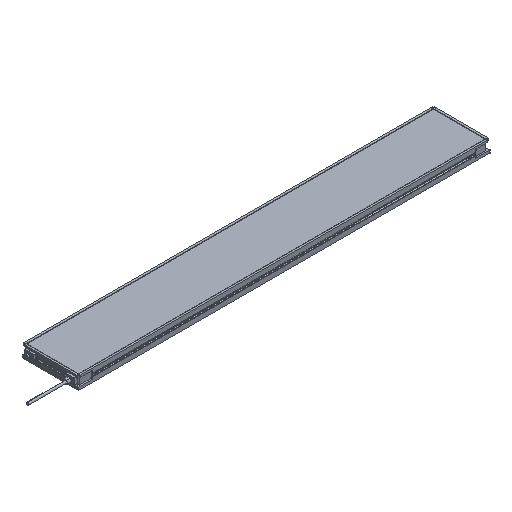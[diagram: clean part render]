
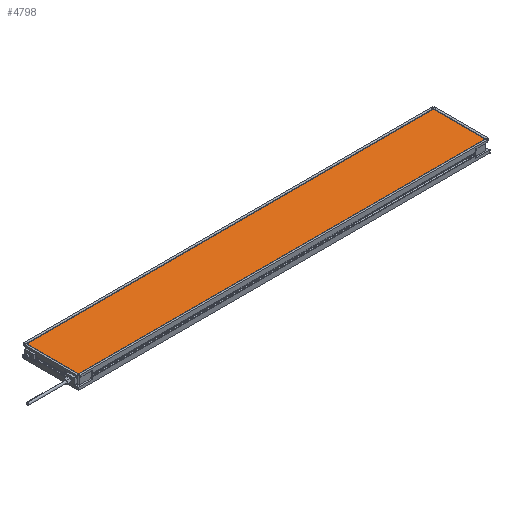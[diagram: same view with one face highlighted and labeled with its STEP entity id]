
A CAD part, isometric view. The second image highlights one B-rep face of the part: STEP entity #4798.
In plain terms, the highlighted planar face has unit normal (0, 0, 1).
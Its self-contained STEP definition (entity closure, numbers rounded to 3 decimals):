
#60 = VERTEX_POINT ( 'NONE', #17444 ) ;
#1674 = VECTOR ( 'NONE', #8723, 1000. ) ;
#2470 = EDGE_CURVE ( 'NONE', #60, #10658, #14914, .T. ) ;
#2506 = VERTEX_POINT ( 'NONE', #5240 ) ;
#2529 = DIRECTION ( 'NONE',  ( 0., -1., 0. ) ) ;
#4030 = DIRECTION ( 'NONE',  ( -1., 0., 0. ) ) ;
#4384 = ORIENTED_EDGE ( 'NONE', *, *, #2470, .T. ) ;
#4798 = ADVANCED_FACE ( 'NONE', ( #13691 ), #6773, .F. ) ;
#5240 = CARTESIAN_POINT ( 'NONE',  ( 4., 196., 41.85 ) ) ;
#5405 = CARTESIAN_POINT ( 'NONE',  ( 0., 0., 41.85 ) ) ;
#5906 = CARTESIAN_POINT ( 'NONE',  ( 1496., 0., 41.85 ) ) ;
#6104 = LINE ( 'NONE', #15268, #7132 ) ;
#6252 = EDGE_CURVE ( 'NONE', #2506, #60, #17575, .T. ) ;
#6773 = PLANE ( 'NONE',  #9308 ) ;
#6966 = VECTOR ( 'NONE', #8158, 1000. ) ;
#7132 = VECTOR ( 'NONE', #10297, 1000. ) ;
#7552 = ORIENTED_EDGE ( 'NONE', *, *, #17200, .T. ) ;
#7990 = ORIENTED_EDGE ( 'NONE', *, *, #10765, .T. ) ;
#8158 = DIRECTION ( 'NONE',  ( 1., 0., 0. ) ) ;
#8723 = DIRECTION ( 'NONE',  ( 0., 1., 0. ) ) ;
#8760 = VECTOR ( 'NONE', #2529, 1000. ) ;
#9308 = AXIS2_PLACEMENT_3D ( 'NONE', #5405, #10953, #4030 ) ;
#9537 = VERTEX_POINT ( 'NONE', #11568 ) ;
#10003 = LINE ( 'NONE', #5906, #1674 ) ;
#10297 = DIRECTION ( 'NONE',  ( -1., 0., 0. ) ) ;
#10658 = VERTEX_POINT ( 'NONE', #12558 ) ;
#10765 = EDGE_CURVE ( 'NONE', #10658, #9537, #10003, .T. ) ;
#10953 = DIRECTION ( 'NONE',  ( 0., 0., -1. ) ) ;
#11155 = CARTESIAN_POINT ( 'NONE',  ( 0., 4., 41.85 ) ) ;
#11568 = CARTESIAN_POINT ( 'NONE',  ( 1496., 196., 41.85 ) ) ;
#11729 = EDGE_LOOP ( 'NONE', ( #7990, #7552, #12536, #4384 ) ) ;
#12106 = CARTESIAN_POINT ( 'NONE',  ( 4., 0., 41.85 ) ) ;
#12536 = ORIENTED_EDGE ( 'NONE', *, *, #6252, .T. ) ;
#12558 = CARTESIAN_POINT ( 'NONE',  ( 1496., 4., 41.85 ) ) ;
#13691 = FACE_OUTER_BOUND ( 'NONE', #11729, .T. ) ;
#14914 = LINE ( 'NONE', #11155, #6966 ) ;
#15268 = CARTESIAN_POINT ( 'NONE',  ( 0., 196., 41.85 ) ) ;
#17200 = EDGE_CURVE ( 'NONE', #9537, #2506, #6104, .T. ) ;
#17444 = CARTESIAN_POINT ( 'NONE',  ( 4., 4., 41.85 ) ) ;
#17575 = LINE ( 'NONE', #12106, #8760 ) ;
